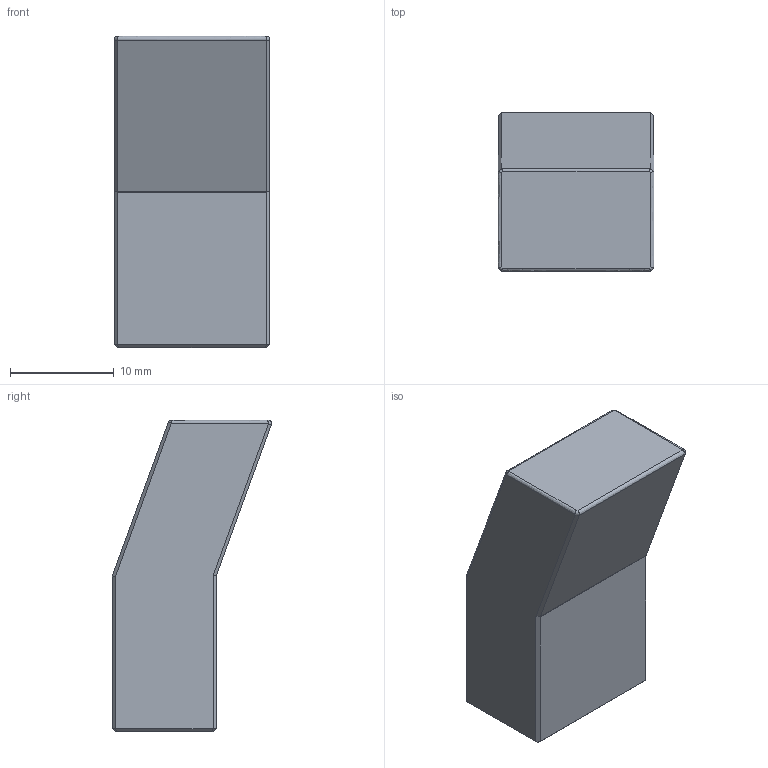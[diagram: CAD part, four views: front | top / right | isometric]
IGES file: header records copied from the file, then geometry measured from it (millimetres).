
Global section: file name: E:\UnigraphicsGraphicData\MISUMI_MOLD-PARTS\NX\3d_ance10_b15_l30_k20_00921_r00.igs; native system: NX V5.0; preprocessor: UGS NX IGES V5.0; author: MISUMI; date: 20101115.182445; units: millimetre
Bounding box: 15 x 15.33 x 30 mm (x, y, z)
Surface area: 2034.5 mm2 (no closed solid volume)
Topology: 0 solids, 0 shells, 37 faces, 207 edges, 206 vertices
Faces by surface type: bspline 37
